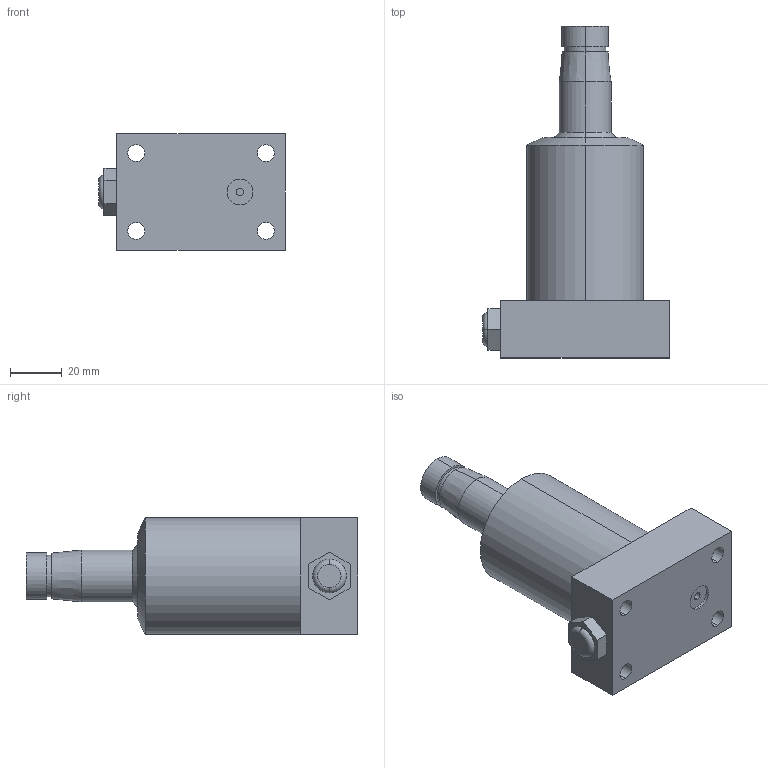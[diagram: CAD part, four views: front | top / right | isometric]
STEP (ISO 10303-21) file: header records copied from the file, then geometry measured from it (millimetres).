
FILE_DESCRIPTION (( 'STEP AP214' ), '1' );
FILE_NAME ('HPS-25-S-C.STEP', '2021-10-18T01:10:50', ( '' ), ( '' ), 'SwSTEP 2.0', 'SolidWorks 2016', '' );
FILE_SCHEMA (( 'AUTOMOTIVE_DESIGN' ));
Length unit declared in the file: millimetre
Products named in the file (1): HPS-25-S-C
Bounding box: 72 x 128 x 45 mm (x, y, z)
Volume: 174227 mm3; surface area: 23752.8 mm2
Topology: 1 solids, 1 shells, 49 faces, 110 edges, 70 vertices
Faces by surface type: plane 21, cylinder 20, cone 6, torus 2
Entity records: 1492 total; most frequent: DIRECTION 262, CARTESIAN_POINT 230, ORIENTED_EDGE 220, EDGE_CURVE 110, AXIS2_PLACEMENT_3D 102, VERTEX_POINT 70, EDGE_LOOP 64, VECTOR 58
